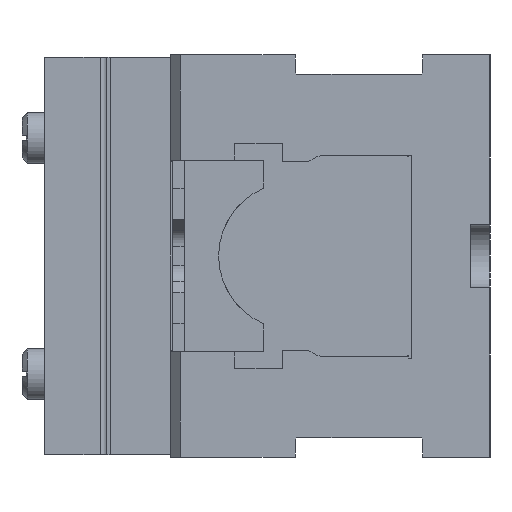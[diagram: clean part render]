
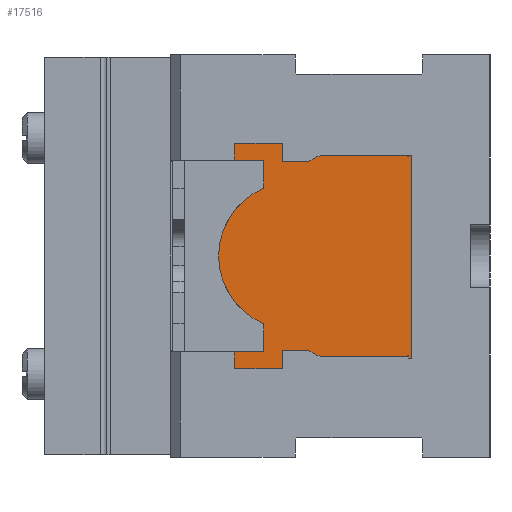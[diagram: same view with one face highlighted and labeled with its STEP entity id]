
A CAD part, left-side view. The second image highlights one B-rep face of the part: STEP entity #17516.
In plain terms, the highlighted planar face has unit normal (-1, 0, 0) as drawn and (0, 0, -1) by its records, which use the part's own axes.
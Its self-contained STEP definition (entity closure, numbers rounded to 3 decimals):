
#16993=DIRECTION('',(1.,0.,0.));
#16994=VECTOR('',#16993,114.);
#16995=CARTESIAN_POINT('',(-57.,-36.,0.));
#16996=LINE('',#16995,#16994);
#16997=DIRECTION('',(0.,1.,0.));
#16998=VECTOR('',#16997,72.);
#16999=CARTESIAN_POINT('',(57.,-36.,0.));
#17000=LINE('',#16999,#16998);
#17001=DIRECTION('',(-1.,0.,0.));
#17002=VECTOR('',#17001,114.);
#17003=CARTESIAN_POINT('',(57.,36.,0.));
#17004=LINE('',#17003,#17002);
#17005=DIRECTION('',(0.,-1.,0.));
#17006=VECTOR('',#17005,72.);
#17007=CARTESIAN_POINT('',(-57.,36.,0.));
#17008=LINE('',#17007,#17006);
#17009=CARTESIAN_POINT('',(-45.,22.,0.));
#17010=DIRECTION('',(0.,0.,1.));
#17011=DIRECTION('',(-1.,0.,0.));
#17012=AXIS2_PLACEMENT_3D('',#17009,#17010,#17011);
#17014=CARTESIAN_POINT('',(-45.,22.,0.));
#17015=DIRECTION('',(0.,0.,1.));
#17016=DIRECTION('',(1.,0.,0.));
#17017=AXIS2_PLACEMENT_3D('',#17014,#17015,#17016);
#17019=CARTESIAN_POINT('',(45.,22.,0.));
#17020=DIRECTION('',(0.,0.,1.));
#17021=DIRECTION('',(-1.,0.,0.));
#17022=AXIS2_PLACEMENT_3D('',#17019,#17020,#17021);
#17024=CARTESIAN_POINT('',(45.,22.,0.));
#17025=DIRECTION('',(0.,0.,1.));
#17026=DIRECTION('',(1.,0.,0.));
#17027=AXIS2_PLACEMENT_3D('',#17024,#17025,#17026);
#17029=CARTESIAN_POINT('',(45.,-23.,0.));
#17030=DIRECTION('',(0.,0.,1.));
#17031=DIRECTION('',(-1.,0.,0.));
#17032=AXIS2_PLACEMENT_3D('',#17029,#17030,#17031);
#17034=CARTESIAN_POINT('',(45.,-23.,0.));
#17035=DIRECTION('',(0.,0.,1.));
#17036=DIRECTION('',(1.,0.,0.));
#17037=AXIS2_PLACEMENT_3D('',#17034,#17035,#17036);
#17039=CARTESIAN_POINT('',(-45.,-23.,0.));
#17040=DIRECTION('',(0.,0.,1.));
#17041=DIRECTION('',(-1.,0.,0.));
#17042=AXIS2_PLACEMENT_3D('',#17039,#17040,#17041);
#17044=CARTESIAN_POINT('',(-45.,-23.,0.));
#17045=DIRECTION('',(0.,0.,1.));
#17046=DIRECTION('',(1.,0.,0.));
#17047=AXIS2_PLACEMENT_3D('',#17044,#17045,#17046);
#17365=CARTESIAN_POINT('',(-57.,-36.,0.));
#17366=CARTESIAN_POINT('',(57.,-36.,0.));
#17367=VERTEX_POINT('',#17365);
#17368=VERTEX_POINT('',#17366);
#17369=CARTESIAN_POINT('',(57.,36.,0.));
#17370=VERTEX_POINT('',#17369);
#17371=CARTESIAN_POINT('',(-57.,36.,0.));
#17372=VERTEX_POINT('',#17371);
#17445=CARTESIAN_POINT('',(-51.,22.,0.));
#17446=CARTESIAN_POINT('',(-39.,22.,0.));
#17447=VERTEX_POINT('',#17445);
#17448=VERTEX_POINT('',#17446);
#17453=CARTESIAN_POINT('',(39.,22.,0.));
#17454=CARTESIAN_POINT('',(51.,22.,0.));
#17455=VERTEX_POINT('',#17453);
#17456=VERTEX_POINT('',#17454);
#17461=CARTESIAN_POINT('',(39.,-23.,0.));
#17462=CARTESIAN_POINT('',(51.,-23.,0.));
#17463=VERTEX_POINT('',#17461);
#17464=VERTEX_POINT('',#17462);
#17469=CARTESIAN_POINT('',(-51.,-23.,0.));
#17470=CARTESIAN_POINT('',(-39.,-23.,0.));
#17471=VERTEX_POINT('',#17469);
#17472=VERTEX_POINT('',#17470);
#17477=CARTESIAN_POINT('',(0.,0.,0.));
#17478=DIRECTION('',(0.,0.,1.));
#17479=DIRECTION('',(1.,0.,0.));
#17480=AXIS2_PLACEMENT_3D('',#17477,#17478,#17479);
#17481=PLANE('',#17480);
#17483=ORIENTED_EDGE('',*,*,#17482,.T.);
#17485=ORIENTED_EDGE('',*,*,#17484,.T.);
#17487=ORIENTED_EDGE('',*,*,#17486,.T.);
#17489=ORIENTED_EDGE('',*,*,#17488,.T.);
#17490=EDGE_LOOP('',(#17483,#17485,#17487,#17489));
#17491=FACE_OUTER_BOUND('',#17490,.F.);
#17493=ORIENTED_EDGE('',*,*,#17492,.F.);
#17495=ORIENTED_EDGE('',*,*,#17494,.F.);
#17496=EDGE_LOOP('',(#17493,#17495));
#17497=FACE_BOUND('',#17496,.F.);
#17499=ORIENTED_EDGE('',*,*,#17498,.F.);
#17501=ORIENTED_EDGE('',*,*,#17500,.F.);
#17502=EDGE_LOOP('',(#17499,#17501));
#17503=FACE_BOUND('',#17502,.F.);
#17505=ORIENTED_EDGE('',*,*,#17504,.F.);
#17507=ORIENTED_EDGE('',*,*,#17506,.F.);
#17508=EDGE_LOOP('',(#17505,#17507));
#17509=FACE_BOUND('',#17508,.F.);
#17511=ORIENTED_EDGE('',*,*,#17510,.F.);
#17513=ORIENTED_EDGE('',*,*,#17512,.F.);
#17514=EDGE_LOOP('',(#17511,#17513));
#17515=FACE_BOUND('',#17514,.F.);
#17516=ADVANCED_FACE('',(#17491,#17497,#17503,#17509,#17515),#17481,.F.);
#17013=CIRCLE('',#17012,6.);
#17018=CIRCLE('',#17017,6.);
#17023=CIRCLE('',#17022,6.);
#17028=CIRCLE('',#17027,6.);
#17033=CIRCLE('',#17032,6.);
#17038=CIRCLE('',#17037,6.);
#17043=CIRCLE('',#17042,6.);
#17048=CIRCLE('',#17047,6.);
#17482=EDGE_CURVE('',#17367,#17368,#16996,.T.);
#17484=EDGE_CURVE('',#17368,#17370,#17000,.T.);
#17486=EDGE_CURVE('',#17370,#17372,#17004,.T.);
#17488=EDGE_CURVE('',#17372,#17367,#17008,.T.);
#17492=EDGE_CURVE('',#17447,#17448,#17013,.T.);
#17494=EDGE_CURVE('',#17448,#17447,#17018,.T.);
#17498=EDGE_CURVE('',#17455,#17456,#17023,.T.);
#17500=EDGE_CURVE('',#17456,#17455,#17028,.T.);
#17504=EDGE_CURVE('',#17463,#17464,#17033,.T.);
#17506=EDGE_CURVE('',#17464,#17463,#17038,.T.);
#17510=EDGE_CURVE('',#17471,#17472,#17043,.T.);
#17512=EDGE_CURVE('',#17472,#17471,#17048,.T.);
